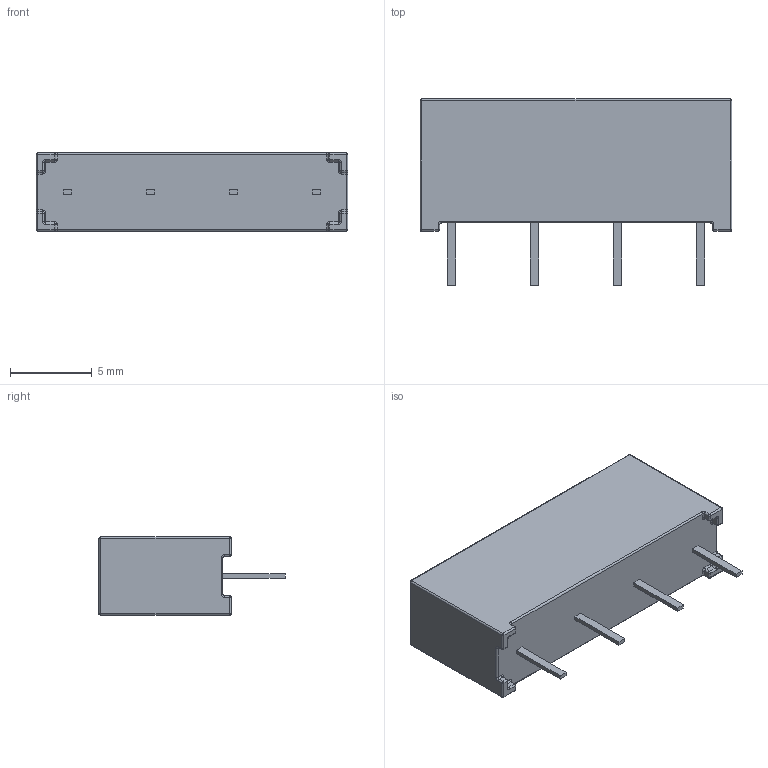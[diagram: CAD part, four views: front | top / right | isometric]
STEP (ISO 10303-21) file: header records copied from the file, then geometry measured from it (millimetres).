
FILE_DESCRIPTION (( 'STEP AP214' ), '1' );
FILE_NAME ('106-1-A.STEP', '2010-11-26T09:04:58', ( ' ' ), ( '' ), 'SwSTEP 2.0', 'SolidWorks 2009', '' );
FILE_SCHEMA (( 'AUTOMOTIVE_DESIGN' ));
Length unit declared in the file: millimetre
Products named in the file (1): 106-1-A
Bounding box: 19.1 x 11.4 x 4.8 mm (x, y, z)
Volume: 699.6 mm3; surface area: 572.6 mm2
Topology: 1 solids, 1 shells, 791 faces, 2075 edges, 1312 vertices
Faces by surface type: plane 446, bspline 225, cylinder 72, sphere 28, torus 20
Entity records: 51762 total; most frequent: CARTESIAN_POINT 25216, ORIENTED_EDGE 4094, DIRECTION 2883, EDGE_CURVE 2047, VECTOR 1421, LINE 1421, VERTEX_POINT 1312, EDGE_LOOP 845
